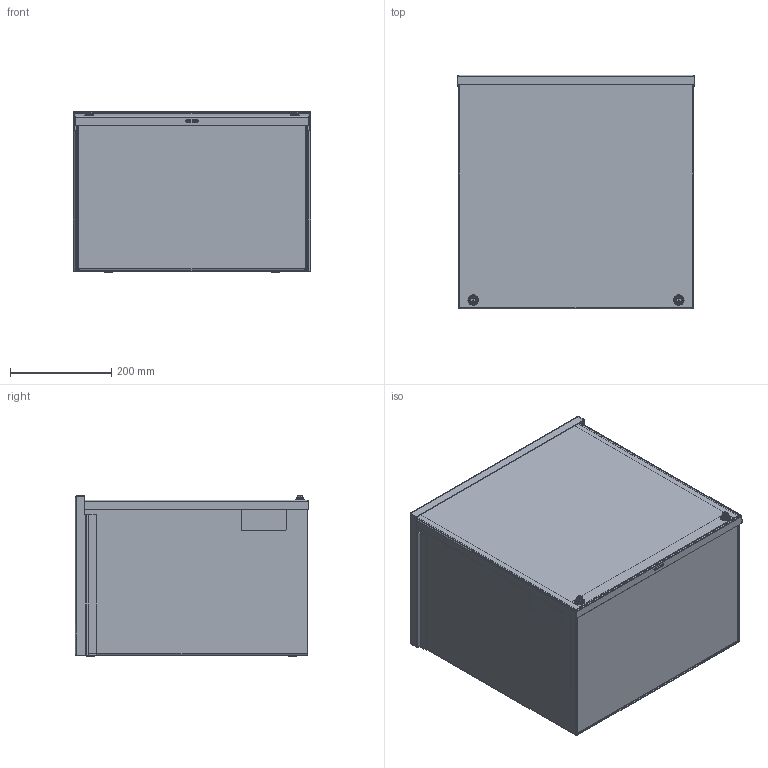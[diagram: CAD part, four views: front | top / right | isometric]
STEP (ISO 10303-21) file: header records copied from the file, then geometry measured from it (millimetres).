
FILE_DESCRIPTION (( 'STEP AP203' ), '1' );
FILE_NAME ('58233.STEP', '2022-10-07T19:42:42', ( '' ), ( '' ), 'SwSTEP 2.0', 'SolidWorks 2020', '' );
FILE_SCHEMA (( 'CONFIG_CONTROL_DESIGN' ));
Length unit declared in the file: inch
Products named in the file (16): 99401048_SCR,PNHDSTC;10-32 X 50 PLT; 89221153_TOP 18 X 8 A60 GALV; 58110007; 43104001; 87780048; 89221152_WELDMENTBOTTOM NK 18X8; 22101001; 89221150_BODY18 X 18 X 8 A60 GALV; 58233; 23157001; 87788411; 43432001_COVER ,18 X 18; A60 GALV; 22157003; 78124001; 89221151_BOTTOM 18 X 8 A60 GALV; 89221154
Assembly tree (21 placements, depth 4):
  58233
    89221154
      89221150_BODY18 X 18 X 8 A60 GALV
      89221153_TOP 18 X 8 A60 GALV
      89221152_WELDMENTBOTTOM NK 18X8
        89221151_BOTTOM 18 X 8 A60 GALV
        58110007  x2
    43432001_COVER ,18 X 18; A60 GALV
    43104001  x2
    22101001  x2
    22157003  x2
    23157001
      87788411
      99401048_SCR,PNHDSTC;10-32 X 50 PLT  x3
      78124001
    87780048
Bounding box: 469.9 x 461.9 x 318.95 mm (x, y, z)
Volume: 1528584.8 mm3; surface area: 2306676.1 mm2
Topology: 19 solids, 19 shells, 565 faces, 1257 edges, 749 vertices
Faces by surface type: plane 271, cylinder 142, torus 64, cone 48, bspline 28, sphere 12
Entity records: 19855 total; most frequent: CARTESIAN_POINT 7657, DIRECTION 2226, ORIENTED_EDGE 2056, EDGE_CURVE 1028, AXIS2_PLACEMENT_3D 829, VERTEX_POINT 606, LINE 568, VECTOR 568
